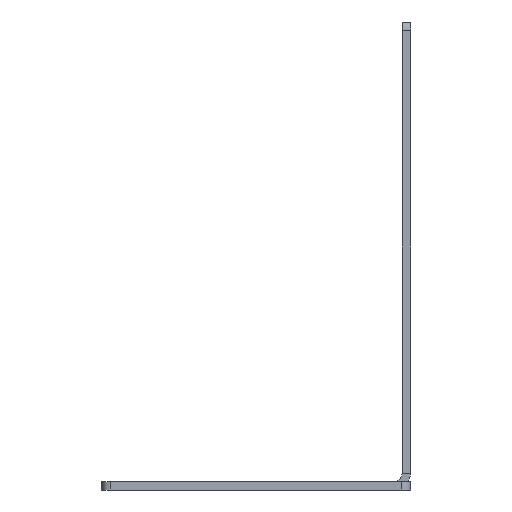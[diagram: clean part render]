
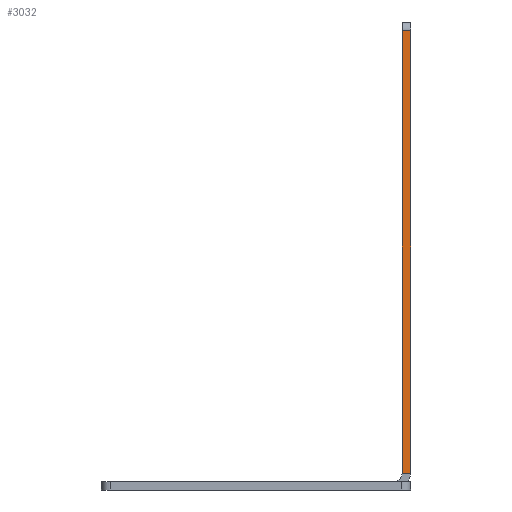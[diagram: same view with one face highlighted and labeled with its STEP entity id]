
A CAD part, left-side view. The second image highlights one B-rep face of the part: STEP entity #3032.
In plain terms, the highlighted planar face has unit normal (-1, 0, 0).
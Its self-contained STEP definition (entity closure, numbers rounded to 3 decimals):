
#137=PLANE('',#3279);
#246=FACE_OUTER_BOUND('',#397,.T.);
#397=EDGE_LOOP('',(#2314,#2315,#2316,#2317));
#710=LINE('',#4831,#983);
#711=LINE('',#4834,#984);
#712=LINE('',#4836,#985);
#713=LINE('',#4837,#986);
#983=VECTOR('',#3922,10.);
#984=VECTOR('',#3925,6.858);
#985=VECTOR('',#3926,10.);
#986=VECTOR('',#3927,10.);
#1421=VERTEX_POINT('',#4824);
#1424=VERTEX_POINT('',#4829);
#1425=VERTEX_POINT('',#4833);
#1426=VERTEX_POINT('',#4835);
#1794=EDGE_CURVE('',#1424,#1421,#710,.T.);
#1795=EDGE_CURVE('',#1424,#1425,#711,.T.);
#1796=EDGE_CURVE('',#1425,#1426,#712,.T.);
#1797=EDGE_CURVE('',#1421,#1426,#713,.T.);
#2314=ORIENTED_EDGE('',*,*,#1794,.F.);
#2315=ORIENTED_EDGE('',*,*,#1795,.T.);
#2316=ORIENTED_EDGE('',*,*,#1796,.T.);
#2317=ORIENTED_EDGE('',*,*,#1797,.F.);
#3032=ADVANCED_FACE('',(#246),#137,.T.);
#3279=AXIS2_PLACEMENT_3D('',#4832,#3923,#3924);
#3922=DIRECTION('',(0.,-1.,0.));
#3923=DIRECTION('center_axis',(-1.,0.,0.));
#3924=DIRECTION('ref_axis',(0.,0.,-1.));
#3925=DIRECTION('',(0.,0.,-1.));
#3926=DIRECTION('',(0.,-1.,0.));
#3927=DIRECTION('',(0.,0.,-1.));
#4824=CARTESIAN_POINT('',(50.,0.,260.));
#4829=CARTESIAN_POINT('',(50.,4.763,260.));
#4831=CARTESIAN_POINT('',(50.,4.762,260.));
#4832=CARTESIAN_POINT('Origin',(50.,4.762,265.));
#4833=CARTESIAN_POINT('',(50.,4.763,9.525));
#4834=CARTESIAN_POINT('',(50.,4.763,-12.02));
#4835=CARTESIAN_POINT('',(50.,0.,9.525));
#4836=CARTESIAN_POINT('',(50.,3.715,9.525));
#4837=CARTESIAN_POINT('',(50.,0.,9.525));
